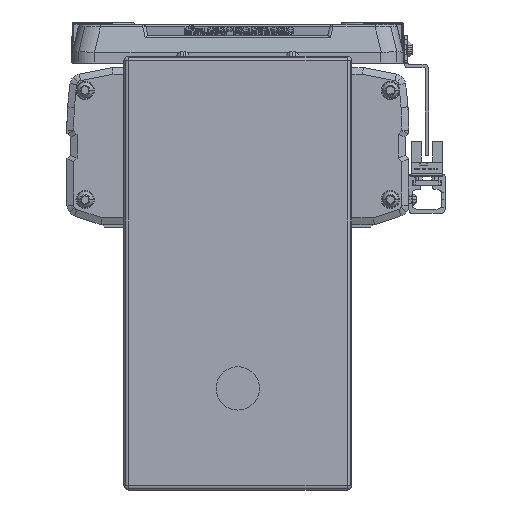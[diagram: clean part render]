
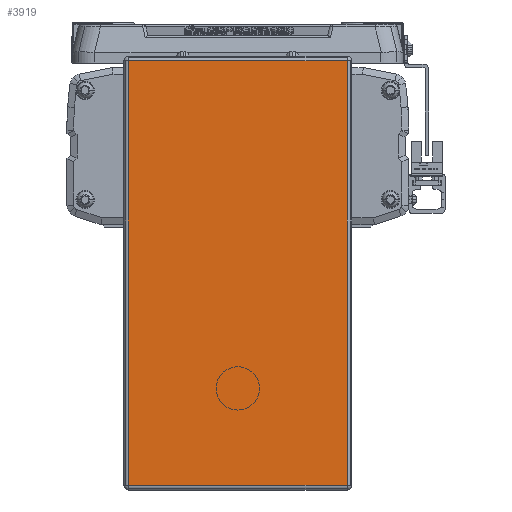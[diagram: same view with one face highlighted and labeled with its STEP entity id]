
A CAD part, left-side view. The second image highlights one B-rep face of the part: STEP entity #3919.
In plain terms, the highlighted planar face has unit normal (-1, 0, 0).
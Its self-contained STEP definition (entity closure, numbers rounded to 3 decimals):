
#3919=ADVANCED_FACE('',(#10281),#10282,.T.);
#10281=FACE_OUTER_BOUND('',#19901,.T.);
#10282=PLANE('',#19902);
#19901=EDGE_LOOP('',(#31520,#31521,#31522,#31523));
#19902=AXIS2_PLACEMENT_3D('',#31524,#31525,#31526);
#31520=ORIENTED_EDGE('',*,*,#57353,.F.);
#31521=ORIENTED_EDGE('',*,*,#57354,.F.);
#31522=ORIENTED_EDGE('',*,*,#56774,.F.);
#31523=ORIENTED_EDGE('',*,*,#56574,.F.);
#31524=CARTESIAN_POINT('',(-45.,0.,-64.2));
#31525=DIRECTION('',(-1.0,0.,0.));
#31526=DIRECTION('',(0.,1.0,0.));
#56574=EDGE_CURVE('',#67157,#67159,#67160,.T.);
#56774=EDGE_CURVE('',#67159,#67515,#67516,.T.);
#57353=EDGE_CURVE('',#68543,#67157,#68544,.T.);
#57354=EDGE_CURVE('',#67515,#68543,#68545,.T.);
#67157=VERTEX_POINT('',#82488);
#67159=VERTEX_POINT('',#82490);
#67160=LINE('',#82491,#82492);
#67515=VERTEX_POINT('',#82980);
#67516=LINE('',#82981,#82982);
#68543=VERTEX_POINT('',#84384);
#68544=LINE('',#84385,#84386);
#68545=LINE('',#84387,#84388);
#82488=CARTESIAN_POINT('',(-45.,-48.,29.));
#82490=CARTESIAN_POINT('',(-45.,-48.,-157.4));
#82491=CARTESIAN_POINT('',(-45.,-48.,-64.2));
#82492=VECTOR('',#104584,10.0);
#82980=CARTESIAN_POINT('',(-45.,48.,-157.4));
#82981=CARTESIAN_POINT('',(-45.,0.,-157.4));
#82982=VECTOR('',#104850,10.0);
#84384=CARTESIAN_POINT('',(-45.,48.,29.));
#84385=CARTESIAN_POINT('',(-45.,0.,29.));
#84386=VECTOR('',#105638,10.0);
#84387=CARTESIAN_POINT('',(-45.,48.,-64.2));
#84388=VECTOR('',#105639,10.0);
#104584=DIRECTION('',(0.,0.,-1.0));
#104850=DIRECTION('',(0.,1.0,0.));
#105638=DIRECTION('',(0.,-1.0,0.));
#105639=DIRECTION('',(0.,0.,1.0));
